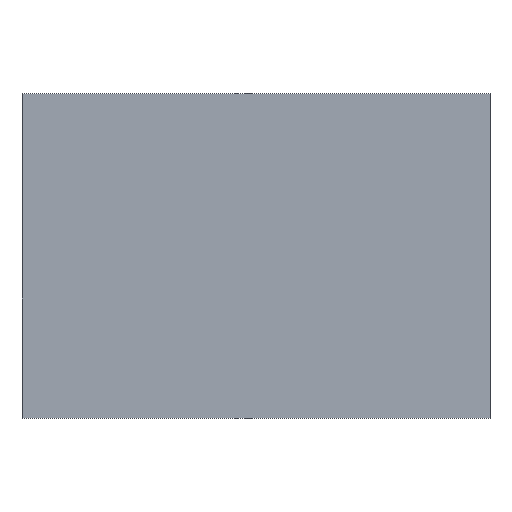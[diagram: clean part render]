
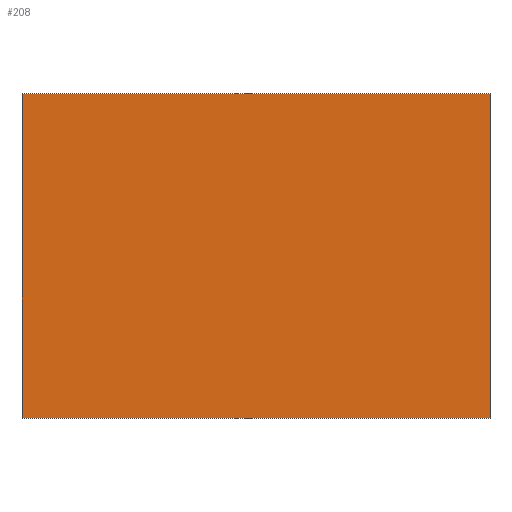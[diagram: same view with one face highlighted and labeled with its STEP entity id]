
A CAD part, top view. The second image highlights one B-rep face of the part: STEP entity #208.
In plain terms, the highlighted planar face has unit normal (0, 0, 1).
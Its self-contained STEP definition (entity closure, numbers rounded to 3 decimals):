
#72=CARTESIAN_POINT('Vertex',(23.152,14.75,20.)) ;
#86=CARTESIAN_POINT('Vertex',(135.056,14.75,20.)) ;
#89=CARTESIAN_POINT('Line Origine',(79.104,14.75,20.)) ;
#117=CARTESIAN_POINT('Vertex',(135.056,92.355,20.)) ;
#120=CARTESIAN_POINT('Line Origine',(135.056,53.553,20.)) ;
#148=CARTESIAN_POINT('Vertex',(23.152,92.355,20.)) ;
#151=CARTESIAN_POINT('Line Origine',(79.104,92.355,20.)) ;
#173=CARTESIAN_POINT('Line Origine',(23.152,53.553,20.)) ;
#197=CARTESIAN_POINT('Axis2P3D Location',(0.,0.,20.)) ;
#90=DIRECTION('Vector Direction',(1.,0.,0.)) ;
#121=DIRECTION('Vector Direction',(0.,1.,0.)) ;
#152=DIRECTION('Vector Direction',(-1.,0.,0.)) ;
#174=DIRECTION('Vector Direction',(0.,-1.,0.)) ;
#198=DIRECTION('Axis2P3D Direction',(0.,0.,1.)) ;
#199=DIRECTION('Axis2P3D XDirection',(1.,0.,0.)) ;
#200=AXIS2_PLACEMENT_3D('Plane Axis2P3D',#197,#198,#199) ;
#203=ORIENTED_EDGE('',*,*,#93,.T.) ;
#204=ORIENTED_EDGE('',*,*,#124,.T.) ;
#205=ORIENTED_EDGE('',*,*,#155,.T.) ;
#206=ORIENTED_EDGE('',*,*,#177,.T.) ;
#91=VECTOR('Line Direction',#90,1.) ;
#122=VECTOR('Line Direction',#121,1.) ;
#153=VECTOR('Line Direction',#152,1.) ;
#175=VECTOR('Line Direction',#174,1.) ;
#208=ADVANCED_FACE('Hauptk\X2\00F6\X0\rper',(#207),#201,.T.) ;
#93=EDGE_CURVE('',#73,#87,#92,.T.) ;
#124=EDGE_CURVE('',#87,#118,#123,.T.) ;
#155=EDGE_CURVE('',#118,#149,#154,.T.) ;
#177=EDGE_CURVE('',#149,#73,#176,.T.) ;
#202=EDGE_LOOP('',(#203,#204,#205,#206)) ;
#207=FACE_OUTER_BOUND('',#202,.T.) ;
#92=LINE('Line',#89,#91) ;
#123=LINE('Line',#120,#122) ;
#154=LINE('Line',#151,#153) ;
#176=LINE('Line',#173,#175) ;
#201=PLANE('Plane',#200) ;
#73=VERTEX_POINT('',#72) ;
#87=VERTEX_POINT('',#86) ;
#118=VERTEX_POINT('',#117) ;
#149=VERTEX_POINT('',#148) ;
